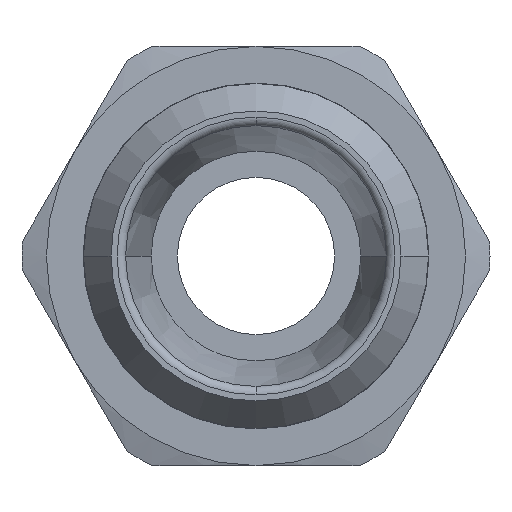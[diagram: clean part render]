
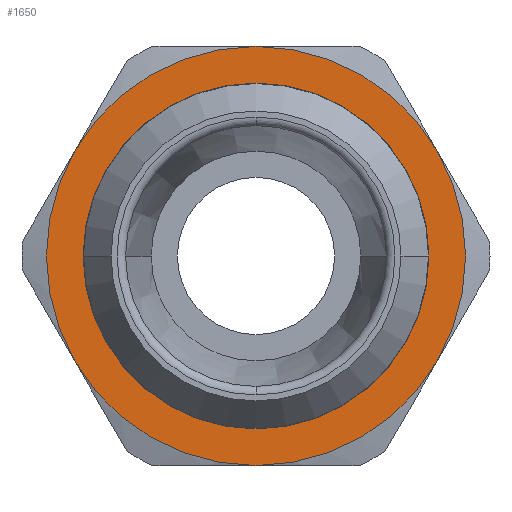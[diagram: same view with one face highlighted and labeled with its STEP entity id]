
A CAD part, left-side view. The second image highlights one B-rep face of the part: STEP entity #1650.
In plain terms, the highlighted planar face has unit normal (-1, 0, 0) as drawn and (0, 0, 1) by its records, which use the part's own axes.
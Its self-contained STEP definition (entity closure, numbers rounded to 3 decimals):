
#808=CARTESIAN_POINT('',(-4.95,0.,2.0));
#809=VERTEX_POINT('',#808);
#835=CARTESIAN_POINT('',(4.95,0.,2.0));
#836=VERTEX_POINT('',#835);
#844=CARTESIAN_POINT('',(0.,0.0,2.0));
#845=DIRECTION('',(0.0,0.0,1.0));
#846=DIRECTION('',(-1.0,0.0,0.0));
#847=AXIS2_PLACEMENT_3D('',#844,#845,#846);
#848=CIRCLE('',#847,4.95);
#849=EDGE_CURVE('',#836,#809,#848,.T.);
#1530=CARTESIAN_POINT('',(0.,-4.95,2.));
#1531=VERTEX_POINT('',#1530);
#1532=CARTESIAN_POINT('',(0.,0.0,2.0));
#1533=DIRECTION('',(0.0,0.0,1.0));
#1534=DIRECTION('',(-1.0,0.0,0.0));
#1535=AXIS2_PLACEMENT_3D('',#1532,#1533,#1534);
#1536=CIRCLE('',#1535,4.95);
#1537=EDGE_CURVE('',#809,#1531,#1536,.T.);
#1539=CARTESIAN_POINT('',(0.,0.0,2.0));
#1540=DIRECTION('',(0.0,0.0,1.0));
#1541=DIRECTION('',(-1.0,0.0,0.0));
#1542=AXIS2_PLACEMENT_3D('',#1539,#1540,#1541);
#1543=CIRCLE('',#1542,4.95);
#1544=EDGE_CURVE('',#1531,#836,#1543,.T.);
#1584=CARTESIAN_POINT('',(0.,0.,2.0));
#1585=DIRECTION('',(0.0,0.0,1.0));
#1586=DIRECTION('',(1.0,0.0,0.0));
#1587=AXIS2_PLACEMENT_3D('',#1584,#1585,#1586);
#1588=PLANE('',#1587);
#1589=CARTESIAN_POINT('',(3.,-5.196,2.));
#1590=VERTEX_POINT('',#1589);
#1591=CARTESIAN_POINT('',(6.0,0.0,2.));
#1592=VERTEX_POINT('',#1591);
#1593=CARTESIAN_POINT('',(0.,0.0,2.0));
#1594=DIRECTION('',(0.0,0.0,1.0));
#1595=DIRECTION('',(1.0,0.0,0.0));
#1596=AXIS2_PLACEMENT_3D('',#1593,#1594,#1595);
#1597=CIRCLE('',#1596,6.);
#1598=EDGE_CURVE('',#1590,#1592,#1597,.T.);
#1599=ORIENTED_EDGE('',*,*,#1598,.T.);
#1600=CARTESIAN_POINT('',(3.,5.196,2.));
#1601=VERTEX_POINT('',#1600);
#1602=CARTESIAN_POINT('',(0.,0.0,2.0));
#1603=DIRECTION('',(0.0,0.0,1.0));
#1604=DIRECTION('',(1.0,0.0,0.0));
#1605=AXIS2_PLACEMENT_3D('',#1602,#1603,#1604);
#1606=CIRCLE('',#1605,6.);
#1607=EDGE_CURVE('',#1592,#1601,#1606,.T.);
#1608=ORIENTED_EDGE('',*,*,#1607,.T.);
#1609=CARTESIAN_POINT('',(-3.,5.196,2.));
#1610=VERTEX_POINT('',#1609);
#1611=CARTESIAN_POINT('',(0.,0.0,2.0));
#1612=DIRECTION('',(0.0,0.0,1.0));
#1613=DIRECTION('',(1.0,0.0,0.0));
#1614=AXIS2_PLACEMENT_3D('',#1611,#1612,#1613);
#1615=CIRCLE('',#1614,6.);
#1616=EDGE_CURVE('',#1601,#1610,#1615,.T.);
#1617=ORIENTED_EDGE('',*,*,#1616,.T.);
#1618=CARTESIAN_POINT('',(-6.,0.,2.));
#1619=VERTEX_POINT('',#1618);
#1620=CARTESIAN_POINT('',(0.,0.0,2.0));
#1621=DIRECTION('',(0.0,0.0,1.0));
#1622=DIRECTION('',(1.0,0.0,0.0));
#1623=AXIS2_PLACEMENT_3D('',#1620,#1621,#1622);
#1624=CIRCLE('',#1623,6.);
#1625=EDGE_CURVE('',#1610,#1619,#1624,.T.);
#1626=ORIENTED_EDGE('',*,*,#1625,.T.);
#1627=CARTESIAN_POINT('',(-3.,-5.196,2.));
#1628=VERTEX_POINT('',#1627);
#1629=CARTESIAN_POINT('',(0.,0.0,2.0));
#1630=DIRECTION('',(0.0,0.0,1.0));
#1631=DIRECTION('',(1.0,0.0,0.0));
#1632=AXIS2_PLACEMENT_3D('',#1629,#1630,#1631);
#1633=CIRCLE('',#1632,6.);
#1634=EDGE_CURVE('',#1619,#1628,#1633,.T.);
#1635=ORIENTED_EDGE('',*,*,#1634,.T.);
#1636=CARTESIAN_POINT('',(0.,0.0,2.0));
#1637=DIRECTION('',(0.0,0.0,1.0));
#1638=DIRECTION('',(1.0,0.0,0.0));
#1639=AXIS2_PLACEMENT_3D('',#1636,#1637,#1638);
#1640=CIRCLE('',#1639,6.);
#1641=EDGE_CURVE('',#1628,#1590,#1640,.T.);
#1642=ORIENTED_EDGE('',*,*,#1641,.T.);
#1643=EDGE_LOOP('',(#1599,#1608,#1617,#1626,#1635,#1642));
#1644=FACE_OUTER_BOUND('',#1643,.T.);
#1645=ORIENTED_EDGE('',*,*,#1544,.F.);
#1646=ORIENTED_EDGE('',*,*,#1537,.F.);
#1647=ORIENTED_EDGE('',*,*,#849,.F.);
#1648=EDGE_LOOP('',(#1645,#1646,#1647));
#1649=FACE_BOUND('',#1648,.T.);
#1650=ADVANCED_FACE('',(#1644,#1649),#1588,.T.);
